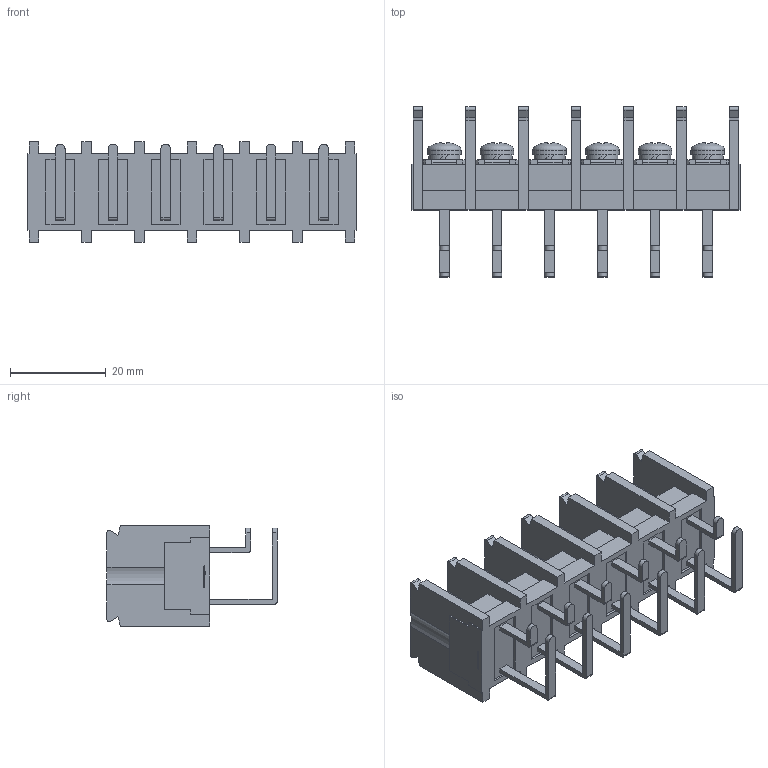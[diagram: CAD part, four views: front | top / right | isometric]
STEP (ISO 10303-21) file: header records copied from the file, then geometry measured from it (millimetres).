
FILE_DESCRIPTION(/* description */ ('Alibre Inc.'),/* implementation_level */ '2;1');
FILE_NAME(/* name */ 'export0',/* time_stamp */ '2015-12-02T12:51:52+09:00',/* author */ (''),/* organization */ (''),/* preprocessor_version */ 'ST-DEVELOPER v14',/* originating_system */ 'Alibre',/* authorisation */ '');
FILE_SCHEMA (('CONFIG_CONTROL_DESIGN'));
Length unit declared in the file: centimetre
Products named in the file (1): ID_1
Bounding box: 68.6 x 35.5 x 21 mm (x, y, z)
Volume: 12941.9 mm3; surface area: 14631.4 mm2
Topology: 1 solids, 17 shells, 1052 faces, 2856 edges, 1900 vertices
Faces by surface type: plane 818, bspline 104, cylinder 88, cone 30, sphere 6, torus 6
Full cylindrical faces by diameter (mm): 4 x6, 6.5 x6, 7 x6
Entity records: 31695 total; most frequent: CARTESIAN_POINT 6790, ORIENTED_EDGE 5664, DIRECTION 3877, EDGE_CURVE 2832, VECTOR 2179, LINE 2179, VERTEX_POINT 1900, AXIS2_PLACEMENT_3D 1223
